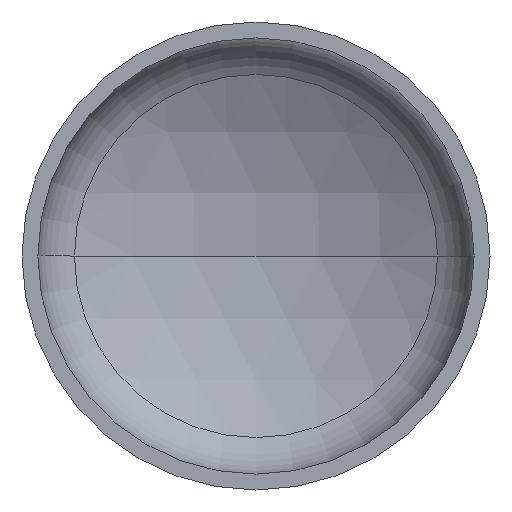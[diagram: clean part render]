
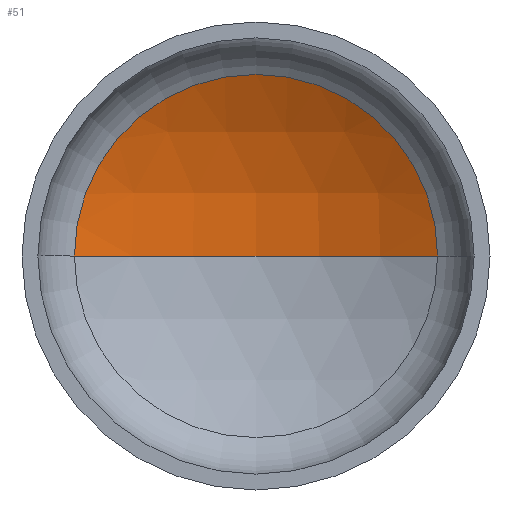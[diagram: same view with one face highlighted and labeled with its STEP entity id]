
A CAD part, front view. The second image highlights one B-rep face of the part: STEP entity #51.
In plain terms, the highlighted spherical face has radius 254 mm.
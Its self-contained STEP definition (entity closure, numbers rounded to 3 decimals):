
#6 = EDGE_LOOP ( 'NONE', ( #107, #140, #149 ) ) ;
#51 = ADVANCED_FACE ( 'NONE', ( #294 ), #357, .F. ) ;
#54 = VERTEX_POINT ( 'NONE', #255 ) ;
#69 = AXIS2_PLACEMENT_3D ( 'NONE', #174, #398, #266 ) ;
#73 = AXIS2_PLACEMENT_3D ( 'NONE', #201, #196, #199 ) ;
#76 = AXIS2_PLACEMENT_3D ( 'NONE', #306, #304, #219 ) ;
#107 = ORIENTED_EDGE ( 'NONE', *, *, #168, .F. ) ;
#112 = AXIS2_PLACEMENT_3D ( 'NONE', #296, #273, #254 ) ;
#140 = ORIENTED_EDGE ( 'NONE', *, *, #164, .T. ) ;
#145 = VERTEX_POINT ( 'NONE', #339 ) ;
#149 = ORIENTED_EDGE ( 'NONE', *, *, #162, .T. ) ;
#162 = EDGE_CURVE ( 'NONE', #178, #145, #278, .T. ) ;
#164 = EDGE_CURVE ( 'NONE', #54, #178, #203, .T. ) ;
#168 = EDGE_CURVE ( 'NONE', #54, #145, #215, .T. ) ;
#174 = CARTESIAN_POINT ( 'NONE',  ( 0., -137.271, 0. ) ) ;
#178 = VERTEX_POINT ( 'NONE', #216 ) ;
#196 = DIRECTION ( 'NONE',  ( 0., 0., -1. ) ) ;
#199 = DIRECTION ( 'NONE',  ( -1., 0., 0. ) ) ;
#201 = CARTESIAN_POINT ( 'NONE',  ( 0., -137.271, 0. ) ) ;
#203 = CIRCLE ( 'NONE', #73, 254. ) ;
#215 = CIRCLE ( 'NONE', #69, 254. ) ;
#216 = CARTESIAN_POINT ( 'NONE',  ( 125.693, 83.449, 0. ) ) ;
#219 = DIRECTION ( 'NONE',  ( 1., 0., 0. ) ) ;
#254 = DIRECTION ( 'NONE',  ( -1., 0., 0. ) ) ;
#255 = CARTESIAN_POINT ( 'NONE',  ( 0., 116.729, 0. ) ) ;
#266 = DIRECTION ( 'NONE',  ( 1., 0., 0. ) ) ;
#273 = DIRECTION ( 'NONE',  ( 0., 0., -1. ) ) ;
#278 = CIRCLE ( 'NONE', #76, 125.693 ) ;
#294 = FACE_OUTER_BOUND ( 'NONE', #6, .T. ) ;
#296 = CARTESIAN_POINT ( 'NONE',  ( 0., -137.271, 0. ) ) ;
#304 = DIRECTION ( 'NONE',  ( 0., -1., 0. ) ) ;
#306 = CARTESIAN_POINT ( 'NONE',  ( 0., 83.449, 0. ) ) ;
#339 = CARTESIAN_POINT ( 'NONE',  ( -125.693, 83.449, 0. ) ) ;
#357 = SPHERICAL_SURFACE ( 'NONE', #112, 254. ) ;
#398 = DIRECTION ( 'NONE',  ( 0., 0., 1. ) ) ;
